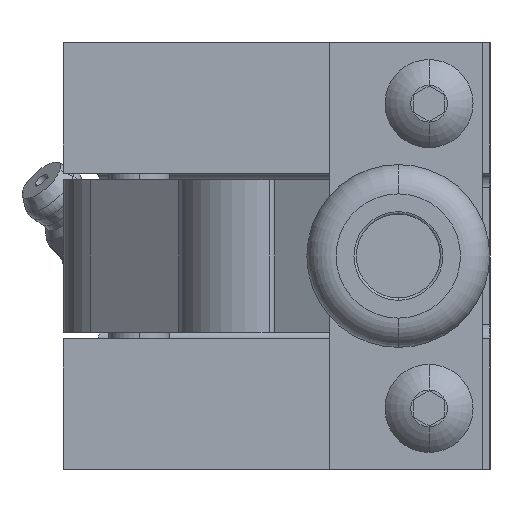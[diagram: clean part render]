
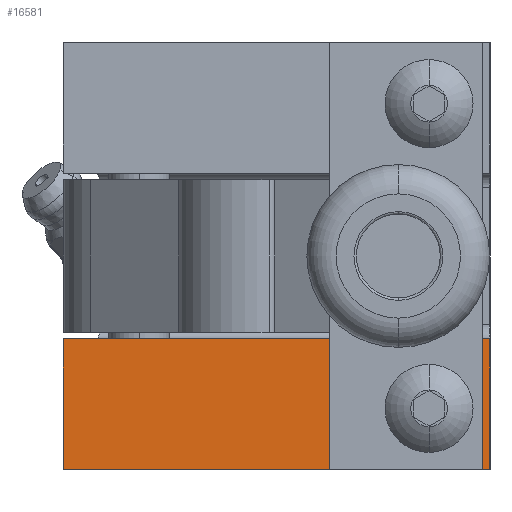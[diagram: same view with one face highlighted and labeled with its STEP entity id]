
A CAD part, left-side view. The second image highlights one B-rep face of the part: STEP entity #16581.
In plain terms, the highlighted planar face has unit normal (-1, 0, 0).
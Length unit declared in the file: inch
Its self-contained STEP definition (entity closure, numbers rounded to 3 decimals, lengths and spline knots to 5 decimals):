
#1117 = CARTESIAN_POINT ( 'NONE',  ( 7.4273, 3.84026, -1.4065 ) ) ;
#1118 = DIRECTION ( 'NONE',  ( 0., 0., 1. ) ) ;
#1119 = DIRECTION ( 'NONE',  ( -1., 0., 0. ) ) ;
#1120 = CARTESIAN_POINT ( 'NONE',  ( 7.4273, 3.84026, -1.5 ) ) ;
#1121 = AXIS2_PLACEMENT_3D ( 'NONE', #1120, #1119, #1118 ) ;
#1122 = CIRCLE ( 'NONE', #1121, 0.0935 ) ;
#1123 = CARTESIAN_POINT ( 'NONE',  ( 7.4273, 3.84026, -1.5935 ) ) ;
#4062 = CARTESIAN_POINT ( 'NONE',  ( 7.4273, 3.59026, -1.215 ) ) ;
#4079 = CARTESIAN_POINT ( 'NONE',  ( 7.4273, 5.34026, -1.75 ) ) ;
#4080 = DIRECTION ( 'NONE',  ( 0., 0., 1. ) ) ;
#4081 = VECTOR ( 'NONE', #4080, 39.37008 ) ;
#4082 = CARTESIAN_POINT ( 'NONE',  ( 7.4273, 5.34026, -1.75 ) ) ;
#4083 = LINE ( 'NONE', #4121, #4120 ) ;
#4119 = DIRECTION ( 'NONE',  ( 0., -1., 0. ) ) ;
#4120 = VECTOR ( 'NONE', #4119, 39.37008 ) ;
#4121 = CARTESIAN_POINT ( 'NONE',  ( 7.4273, 3.59026, -1.75 ) ) ;
#4139 = DIRECTION ( 'NONE',  ( 0., 0., 1. ) ) ;
#4140 = DIRECTION ( 'NONE',  ( -1., 0., 0. ) ) ;
#4141 = CARTESIAN_POINT ( 'NONE',  ( 7.4273, 3.84026, -1.5 ) ) ;
#4142 = AXIS2_PLACEMENT_3D ( 'NONE', #4141, #4140, #4139 ) ;
#4143 = CIRCLE ( 'NONE', #4142, 0.0935 ) ;
#4167 = LINE ( 'NONE', #4082, #4081 ) ;
#4269 = DIRECTION ( 'NONE',  ( 0., 0., 1. ) ) ;
#4270 = DIRECTION ( 'NONE',  ( -1., 0., 0. ) ) ;
#4271 = CARTESIAN_POINT ( 'NONE',  ( 7.4273, 3.59026, -1.75 ) ) ;
#4272 = AXIS2_PLACEMENT_3D ( 'NONE', #4271, #4270, #4269 ) ;
#4273 = PLANE ( 'NONE',  #4272 ) ;
#4285 = FACE_OUTER_BOUND ( 'NONE', #14902, .T. ) ;
#4286 = FACE_BOUND ( 'NONE', #16582, .T. ) ;
#4398 = CARTESIAN_POINT ( 'NONE',  ( 7.4273, 5.34026, -1.215 ) ) ;
#4400 = DIRECTION ( 'NONE',  ( 0., -1., 0. ) ) ;
#4401 = VECTOR ( 'NONE', #4400, 39.37008 ) ;
#4402 = CARTESIAN_POINT ( 'NONE',  ( 7.4273, 3.59026, -1.215 ) ) ;
#4403 = LINE ( 'NONE', #4402, #4401 ) ;
#4404 = CARTESIAN_POINT ( 'NONE',  ( 7.4273, 3.59026, -1.75 ) ) ;
#4405 = DIRECTION ( 'NONE',  ( 0., 0., 1. ) ) ;
#4406 = VECTOR ( 'NONE', #4405, 39.37008 ) ;
#4407 = CARTESIAN_POINT ( 'NONE',  ( 7.4273, 3.59026, -1.75 ) ) ;
#4408 = LINE ( 'NONE', #4407, #4406 ) ;
#14902 = EDGE_LOOP ( 'NONE', ( #16600, #16512, #16359, #16430 ) ) ;
#15169 = VERTEX_POINT ( 'NONE', #1123 ) ;
#15171 = EDGE_CURVE ( 'NONE', #15169, #15172, #1122, .T. ) ;
#15172 = VERTEX_POINT ( 'NONE', #1117 ) ;
#16359 = ORIENTED_EDGE ( 'NONE', *, *, #16432, .T. ) ;
#16430 = ORIENTED_EDGE ( 'NONE', *, *, #16560, .T. ) ;
#16432 = EDGE_CURVE ( 'NONE', #16497, #16561, #4083, .T. ) ;
#16486 = ORIENTED_EDGE ( 'NONE', *, *, #16487, .F. ) ;
#16487 = EDGE_CURVE ( 'NONE', #15172, #15169, #4143, .T. ) ;
#16488 = ORIENTED_EDGE ( 'NONE', *, *, #15171, .F. ) ;
#16496 = EDGE_CURVE ( 'NONE', #16497, #16599, #4167, .T. ) ;
#16497 = VERTEX_POINT ( 'NONE', #4079 ) ;
#16512 = ORIENTED_EDGE ( 'NONE', *, *, #16496, .F. ) ;
#16533 = VERTEX_POINT ( 'NONE', #4062 ) ;
#16560 = EDGE_CURVE ( 'NONE', #16561, #16533, #4408, .T. ) ;
#16561 = VERTEX_POINT ( 'NONE', #4404 ) ;
#16581 = ADVANCED_FACE ( 'NONE', ( #4286, #4285 ), #4273, .T. ) ;
#16582 = EDGE_LOOP ( 'NONE', ( #16486, #16488 ) ) ;
#16595 = EDGE_CURVE ( 'NONE', #16599, #16533, #4403, .T. ) ;
#16599 = VERTEX_POINT ( 'NONE', #4398 ) ;
#16600 = ORIENTED_EDGE ( 'NONE', *, *, #16595, .F. ) ;
